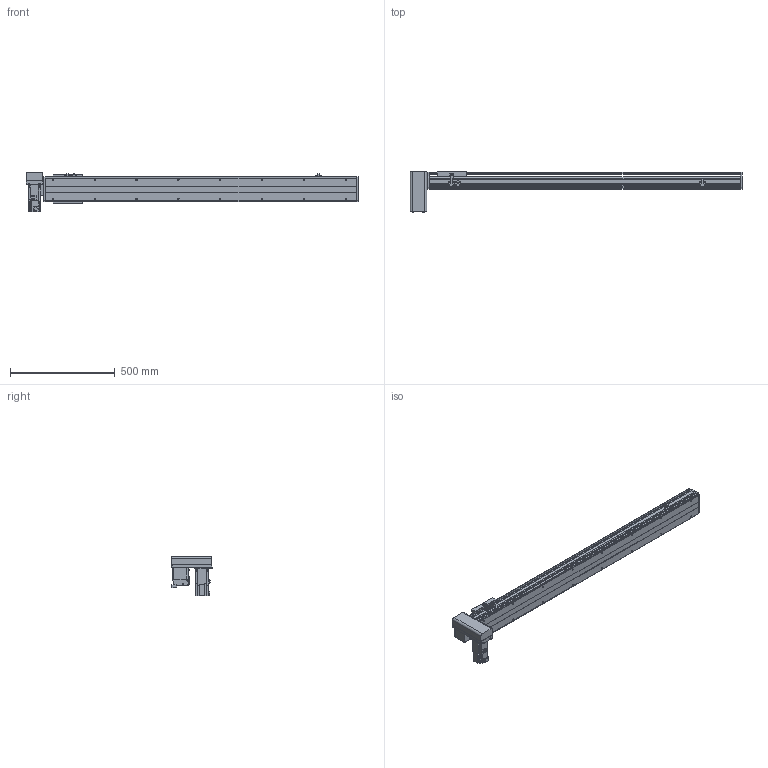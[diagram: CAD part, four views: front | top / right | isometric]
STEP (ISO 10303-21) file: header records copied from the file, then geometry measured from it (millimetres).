
FILE_DESCRIPTION( ( 'STEP AP214' ), '1' );
FILE_NAME( 'x:/temp/worker_27/temp/exporttempdir_6708_185_b0yjp/format_0/PBS120-P40-S1200-RD-T40-C1-N(0).stp', '2022-06-06T00:41:44', ( 'License CC BY-ND 4.0' ), ( 'CADENAS' ), ' ', 'PARTsolutions', ' ' );
FILE_SCHEMA( ( 'AUTOMOTIVE_DESIGN { 1 0 10303 214 1 1 1 1 }' ) );
Length unit declared in the file: millimetre
Products named in the file (7): PBS120-P40-S1200-RD-T40-C1-N(0); _PBS120-S1200()_body; _PBS120T-RD_motors; _T40-p1; _PBS120_sliser; _PBS120_plant; _PBS120_sensor
Assembly tree (8 placements, depth 2):
  PBS120-P40-S1200-RD-T40-C1-N(0)
    _PBS120-S1200()_body
    _PBS120T-RD_motors
    _T40-p1
    _PBS120_sliser
    _PBS120_plant
    _PBS120_sensor  x3
Bounding box: 1586 x 196 x 189.7 mm (x, y, z)
Volume: 6612392.1 mm3; surface area: 1307288 mm2
Topology: 8 solids, 8 shells, 828 faces, 2156 edges, 1387 vertices
Faces by surface type: plane 549, cylinder 229, cone 48, torus 2
Full cylindrical faces by diameter (mm): 2.459 x6, 3.242 x4, 4 x2, 4.134 x4, 4.5 x10, 4.917 x20, 5.5 x11, 6 x2, 6.6 x1, 7 x2, 8.5 x4, 9 x4, 12 x1, 14 x1, 30 x2, 40 x1, 50 x2
Entity records: 27324 total; most frequent: DIRECTION 3740, CARTESIAN_POINT 3677, ORIENTED_EDGE 3502, EDGE_CURVE 1751, AXIS2_PLACEMENT_3D 1256, LINE 1228, VECTOR 1228, VERTEX_POINT 1193
